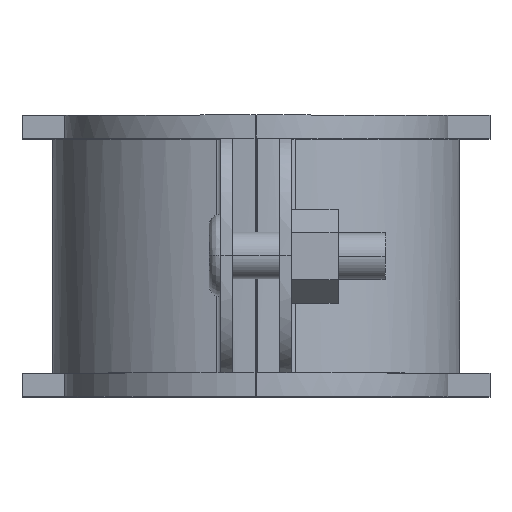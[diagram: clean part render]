
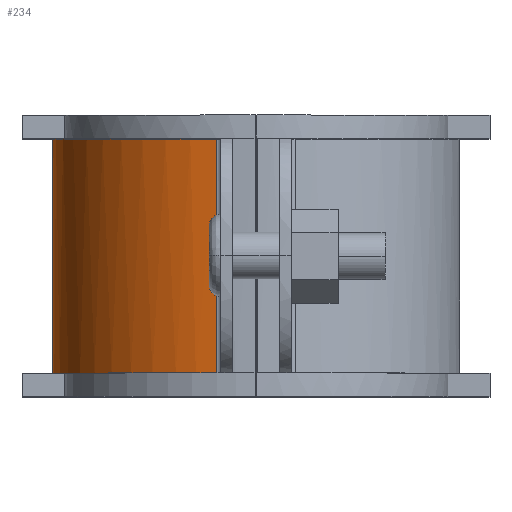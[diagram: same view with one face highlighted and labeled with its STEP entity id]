
A CAD part, top view. The second image highlights one B-rep face of the part: STEP entity #234.
In plain terms, the highlighted free-form (B-spline) face has degree [3, 1] with [4, 2] control points.
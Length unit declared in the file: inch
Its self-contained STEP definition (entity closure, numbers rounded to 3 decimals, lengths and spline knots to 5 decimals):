
#234=ADVANCED_FACE('',(#569),#570,.T.);
#569=FACE_OUTER_BOUND('',#1064,.T.);
#570=B_SPLINE_SURFACE_WITH_KNOTS('',3,1,((#1065,#1066),(#1067,#1068),(#1069,#1070),(#1071,#1072)),.UNSPECIFIED.,.F.,.F.,.F.,(4,4),(2,2),(-1.0,-0.0),(0.0,1.25),.UNSPECIFIED.);
#1064=EDGE_LOOP('',(#2157,#2158,#2159,#2160));
#1065=CARTESIAN_POINT('',(0.87561,1.25,2.80523));
#1066=CARTESIAN_POINT('',(0.87561,0.,2.80523));
#1067=CARTESIAN_POINT('',(0.37665,1.25,2.70776));
#1068=CARTESIAN_POINT('',(0.37665,0.,2.70776));
#1069=CARTESIAN_POINT('',(0.00007,1.25,2.26848));
#1070=CARTESIAN_POINT('',(0.00007,0.,2.26848));
#1071=CARTESIAN_POINT('',(0.00007,1.25,1.74098));
#1072=CARTESIAN_POINT('',(0.00007,0.,1.74098));
#2157=ORIENTED_EDGE('',*,*,#3215,.T.);
#2158=ORIENTED_EDGE('',*,*,#3278,.T.);
#2159=ORIENTED_EDGE('',*,*,#3279,.T.);
#2160=ORIENTED_EDGE('',*,*,#3280,.F.);
#3215=EDGE_CURVE('',#3813,#3811,#3814,.T.);
#3278=EDGE_CURVE('',#3811,#3922,#3923,.T.);
#3279=EDGE_CURVE('',#3922,#3924,#3925,.T.);
#3280=EDGE_CURVE('',#3813,#3924,#3926,.T.);
#3811=VERTEX_POINT('',#4680);
#3813=VERTEX_POINT('',#4683);
#3814=B_SPLINE_CURVE_WITH_KNOTS('',3,(#4684,#4685,#4686,#4687),.UNSPECIFIED.,.F.,.F.,(4,4),(-1.0,-0.0),.UNSPECIFIED.);
#3922=VERTEX_POINT('',#4883);
#3923=LINE('',#4884,#4885);
#3924=VERTEX_POINT('',#4886);
#3925=B_SPLINE_CURVE_WITH_KNOTS('',3,(#4887,#4888,#4889,#4890),.UNSPECIFIED.,.F.,.F.,(4,4),(0.0,1.0),.UNSPECIFIED.);
#3926=LINE('',#4891,#4892);
#4680=CARTESIAN_POINT('',(0.00007,1.24627,1.74098));
#4683=CARTESIAN_POINT('',(0.87561,1.24627,2.80523));
#4684=CARTESIAN_POINT('',(0.87561,1.24627,2.80523));
#4685=CARTESIAN_POINT('',(0.37665,1.24627,2.70776));
#4686=CARTESIAN_POINT('',(0.00007,1.24627,2.26848));
#4687=CARTESIAN_POINT('',(0.00007,1.24627,1.74098));
#4883=CARTESIAN_POINT('',(0.00007,0.,1.74098));
#4884=CARTESIAN_POINT('',(0.00007,1.25,1.74098));
#4885=VECTOR('',#5919,1.0);
#4886=CARTESIAN_POINT('',(0.87561,0.,2.80523));
#4887=CARTESIAN_POINT('',(0.00007,0.,1.74098));
#4888=CARTESIAN_POINT('',(0.00007,0.,2.26848));
#4889=CARTESIAN_POINT('',(0.37665,0.,2.70776));
#4890=CARTESIAN_POINT('',(0.87561,0.,2.80523));
#4891=CARTESIAN_POINT('',(0.87561,1.25,2.80523));
#4892=VECTOR('',#5920,1.0);
#5919=DIRECTION('',(0.0,-1.0,0.0));
#5920=DIRECTION('',(0.0,-1.0,0.0));
